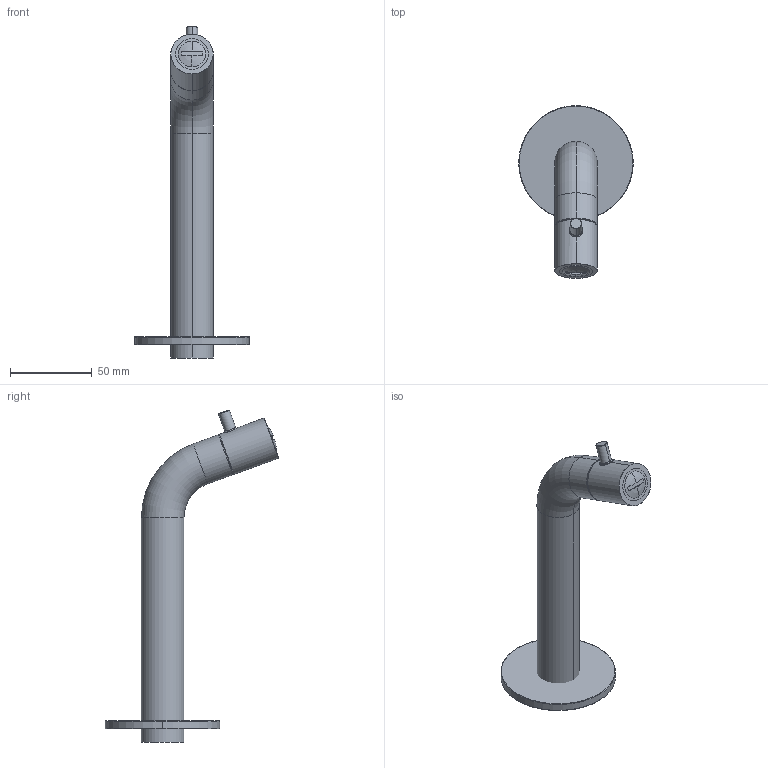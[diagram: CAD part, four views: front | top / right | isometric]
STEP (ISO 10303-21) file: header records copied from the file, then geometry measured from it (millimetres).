
FILE_DESCRIPTION((''),'2;1');
FILE_NAME('48126--00_SUB01_SW0001','2026-09-09T10:29:00',('clra1'),(''),'CREO PARAMETRIC BY PTC INC, 2022244','CREO PARAMETRIC BY PTC INC, 2022244','');
FILE_SCHEMA(('CONFIG_CONTROL_DESIGN'));
Length unit declared in the file: millimetre
Products named in the file (1): 48126--00_SUB01_SW0001
Bounding box: 70 x 105.83 x 202.82 mm (x, y, z)
Surface area: 30479.8 mm2 (no closed solid volume)
Topology: 0 solids, 8 shells, 44 faces, 89 edges, 54 vertices
Faces by surface type: cylinder 15, torus 14, plane 11, bspline 2, sphere 2
Entity records: 1449 total; most frequent: CARTESIAN_POINT 469, DIRECTION 231, ORIENTED_EDGE 164, AXIS2_PLACEMENT_3D 106, EDGE_CURVE 89, CIRCLE 64, VERTEX_POINT 54, EDGE_LOOP 44
